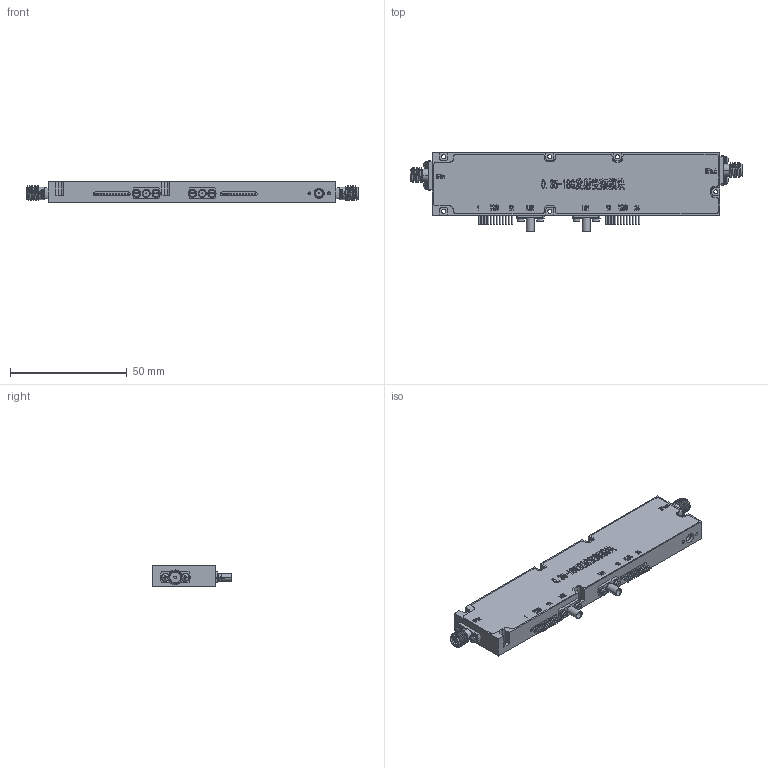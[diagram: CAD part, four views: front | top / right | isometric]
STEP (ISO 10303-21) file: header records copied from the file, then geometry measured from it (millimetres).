
FILE_DESCRIPTION (( 'STEP AP214' ), '1' );
FILE_NAME ('0.35-18G楷扞曹け耀輸.STEP', '2026-08-28T01:15:48', ( '' ), ( '' ), 'SwSTEP 2.0', 'SolidWorks 2020', '' );
FILE_SCHEMA (( 'AUTOMOTIVE_DESIGN' ));
Length unit declared in the file: millimetre
Products named in the file (12): smp-jfd22-L蟀諉ん蚾饜; 0.35-18G楷扞曹け耀輸; SMA-8.6潔擒樓蹟隊; SMP(M)-JYD67-L(舜峚) - ; cross recessed pan head screws gb_GB_CROSS_SCREWS_TYPE1 M1.6X4-4  H type-N; spring lock washers--normal type gb_GB_FASTENER_WASHER_SW 2; plain washers-s series-grade a gb_GB_FASTENER_WASHER_PWSA 1.6; smp-jfd22-L; slotted cheese head screws gb_GB_FASTENER_SCREWS_SCHS M1.6X3-3-N; M1.6蹟隊郪蚾; SMA-8.6潔擒
Assembly tree (17 placements, depth 4):
  0.35-18G楷扞曹け耀輸
    0.35-18G楷扞曹け耀輸
    smp-jfd22-L蟀諉ん蚾饜  x2
      smp-jfd22-L
      plain washers-s series-grade a gb_GB_FASTENER_WASHER_PWSA 1.6
      slotted cheese head screws gb_GB_FASTENER_SCREWS_SCHS M1.6X3-3-N
    SMP(M)-JYD67-L(舜峚) - 
    SMA-8.6潔擒樓蹟隊  x2
      SMA-8.6潔擒
      M1.6蹟隊郪蚾
        cross recessed pan head screws gb_GB_CROSS_SCREWS_TYPE1 M1.6X4-4  H type-N
        spring lock washers--normal type gb_GB_FASTENER_WASHER_SW 2
        plain washers-s series-grade a gb_GB_FASTENER_WASHER_PWSA 1.6
Bounding box: 142.4 x 33.7 x 9 mm (x, y, z)
Volume: 30081.3 mm3; surface area: 12311.4 mm2
Topology: 52 solids, 52 shells, 1526 faces, 3870 edges, 2562 vertices
Faces by surface type: plane 773, bspline 375, cylinder 326, cone 24, torus 16, sphere 12
Entity records: 63675 total; most frequent: CARTESIAN_POINT 24079, ORIENTED_EDGE 6450, DIRECTION 4674, EDGE_CURVE 3225, VERTEX_POINT 2142, VECTOR 1994, LINE 1994, EDGE_LOOP 1391
